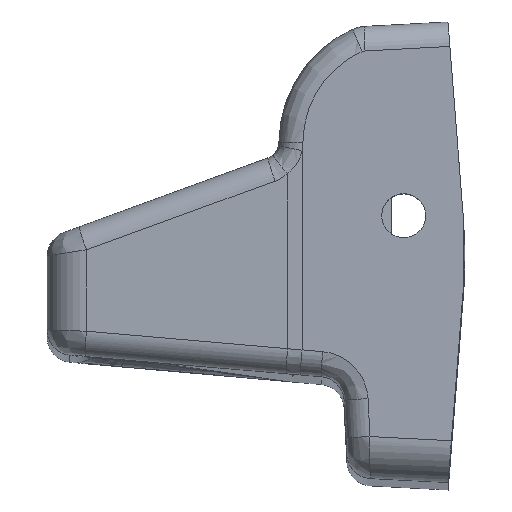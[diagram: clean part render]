
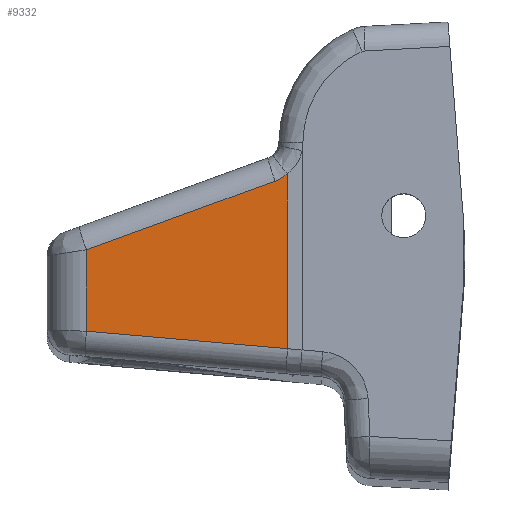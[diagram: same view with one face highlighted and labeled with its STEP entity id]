
A CAD part, left-side view. The second image highlights one B-rep face of the part: STEP entity #9332.
In plain terms, the highlighted planar face has unit normal (-0.999, 0.052, 0.013).
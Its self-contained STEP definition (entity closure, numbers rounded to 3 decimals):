
#5509=CARTESIAN_POINT('Vertex',(841.042,-480.402,360.978)) ;
#5512=CARTESIAN_POINT('Line Origine',(840.922,-480.402,351.566)) ;
#5516=CARTESIAN_POINT('Vertex',(840.773,-480.402,339.901)) ;
#5983=CARTESIAN_POINT('Vertex',(842.071,-456.151,342.006)) ;
#5986=CARTESIAN_POINT('Line Origine',(841.438,-467.976,340.98)) ;
#9298=CARTESIAN_POINT('Axis2P3D Location',(840.151,-501.913,379.451)) ;
#9304=CARTESIAN_POINT('Control Point',(841.042,-480.402,360.978)) ;
#9305=CARTESIAN_POINT('Control Point',(841.053,-480.136,360.756)) ;
#9306=CARTESIAN_POINT('Control Point',(841.065,-479.851,360.557)) ;
#9307=CARTESIAN_POINT('Control Point',(841.079,-479.549,360.383)) ;
#9308=CARTESIAN_POINT('Control Point',(841.094,-479.234,360.237)) ;
#9309=CARTESIAN_POINT('Control Point',(841.109,-478.909,360.118)) ;
#9310=CARTESIAN_POINT('Vertex',(841.109,-478.909,360.118)) ;
#9313=CARTESIAN_POINT('Line Origine',(841.653,-467.53,355.969)) ;
#9317=CARTESIAN_POINT('Vertex',(842.196,-456.151,351.82)) ;
#9320=CARTESIAN_POINT('Line Origine',(842.133,-456.151,346.913)) ;
#5513=DIRECTION('Vector Direction',(-0.013,0.,-1.)) ;
#5987=DIRECTION('Vector Direction',(0.053,0.995,0.086)) ;
#9299=DIRECTION('Axis2P3D Direction',(-0.999,0.052,0.013)) ;
#9300=DIRECTION('Axis2P3D XDirection',(-0.013,0.,-1.)) ;
#9314=DIRECTION('Vector Direction',(0.045,0.939,-0.342)) ;
#9321=DIRECTION('Vector Direction',(-0.013,0.,-1.)) ;
#9301=AXIS2_PLACEMENT_3D('Plane Axis2P3D',#9298,#9299,#9300) ;
#9326=ORIENTED_EDGE('',*,*,#5518,.F.) ;
#9327=ORIENTED_EDGE('',*,*,#9312,.T.) ;
#9328=ORIENTED_EDGE('',*,*,#9319,.T.) ;
#9329=ORIENTED_EDGE('',*,*,#9324,.T.) ;
#9330=ORIENTED_EDGE('',*,*,#5990,.T.) ;
#5514=VECTOR('Line Direction',#5513,1.) ;
#5988=VECTOR('Line Direction',#5987,1.) ;
#9315=VECTOR('Line Direction',#9314,1.) ;
#9322=VECTOR('Line Direction',#9321,1.) ;
#9332=ADVANCED_FACE('new',(#9331),#9302,.T.) ;
#9303=B_SPLINE_CURVE_WITH_KNOTS('',5,(#9304,#9305,#9306,#9307,#9308,#9309),.UNSPECIFIED.,.F.,.U.,(6,6),(0.,2.453),.UNSPECIFIED.) ;
#5518=EDGE_CURVE('',#5510,#5517,#5515,.T.) ;
#5990=EDGE_CURVE('',#5984,#5517,#5989,.F.) ;
#9312=EDGE_CURVE('',#5510,#9311,#9303,.T.) ;
#9319=EDGE_CURVE('',#9311,#9318,#9316,.T.) ;
#9324=EDGE_CURVE('',#9318,#5984,#9323,.T.) ;
#9325=EDGE_LOOP('',(#9326,#9327,#9328,#9329,#9330)) ;
#9331=FACE_OUTER_BOUND('',#9325,.T.) ;
#5515=LINE('Line',#5512,#5514) ;
#5989=LINE('Line',#5986,#5988) ;
#9316=LINE('Line',#9313,#9315) ;
#9323=LINE('Line',#9320,#9322) ;
#9302=PLANE('',#9301) ;
#5510=VERTEX_POINT('',#5509) ;
#5517=VERTEX_POINT('',#5516) ;
#5984=VERTEX_POINT('',#5983) ;
#9311=VERTEX_POINT('',#9310) ;
#9318=VERTEX_POINT('',#9317) ;
